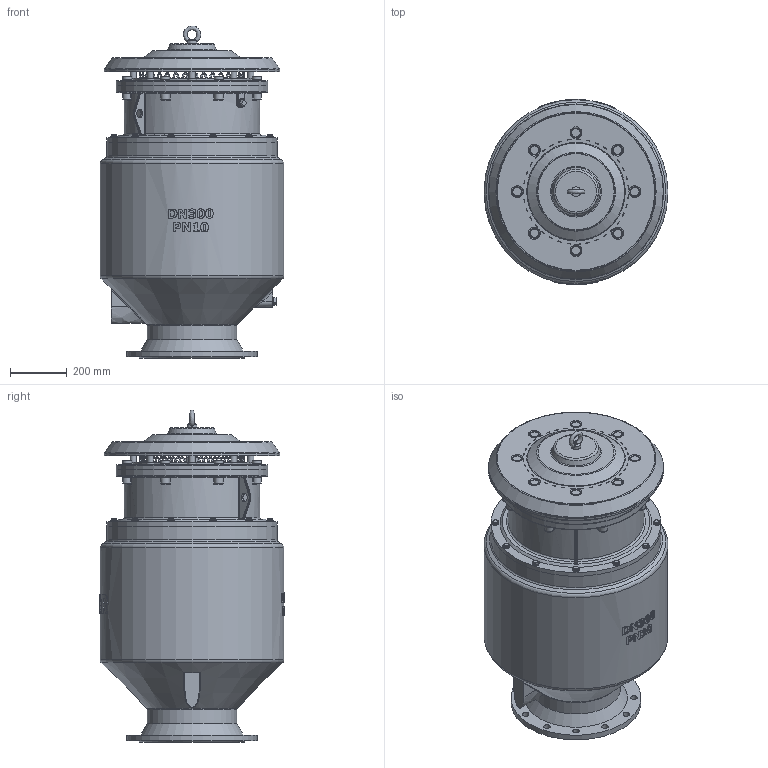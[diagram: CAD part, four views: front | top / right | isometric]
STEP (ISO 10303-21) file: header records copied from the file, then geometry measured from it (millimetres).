
FILE_DESCRIPTION(('STEP AP203'), '1');
FILE_NAME('Âîçäóøíûé êëàïàí FLOWJET SR', '', ('UNSPECIFIED'), ('UNSPECIFIED'), 'C3D Converter', 'C3D Toolkit', '');
FILE_SCHEMA(('CONFIG_CONTROL_DESIGN'));
Length unit declared in the file: millimetre
Assembly tree (78 placements, depth 2):
  (unnamed)
    (unnamed)
    (unnamed)
    (unnamed)
    (unnamed)
    (unnamed)
    (unnamed)
    (unnamed)
    (unnamed)
    (unnamed)
    (unnamed)
    (unnamed)
    (unnamed)  x8
    (unnamed)
    (unnamed)  x8
    (unnamed)  x12
    (unnamed)  x12
    (unnamed)  x8
    (unnamed)  x8
    (unnamed)  x8
    (unnamed)  x2
Bounding box: 650 x 654 x 1172.85 mm (x, y, z)
Volume: 35789448.1 mm3; surface area: 8862212.1 mm2
Topology: 79 solids, 80 shells, 2346 faces, 5826 edges, 3756 vertices
Faces by surface type: plane 803, bspline 553, cylinder 495, torus 202, extrusion 156, cone 128, sphere 9
Full cylindrical faces by diameter (mm): 9.026 x8, 10 x32, 10.5 x8, 11 x8, 11.026 x12, 12 x24, 13 x14, 16 x63, 18 x8, 20 x10, 21 x1, 21.3 x3, 22 x8, 23 x12, 24 x21, 25.6 x8, 30 x4, 32 x10, 48 x1, 82.234 x1, 292 x1, 300 x2, 316 x1, 370 x1, 372 x1, 384 x1, 410.667 x1, 416 x2, 432 x2, 436 x3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
Entity records: 151613 total; most frequent: CARTESIAN_POINT 109624, ORIENTED_EDGE 8378, DIRECTION 5886, EDGE_CURVE 4189, VERTEX_POINT 2859, AXIS2_PLACEMENT_3D 2384, EDGE_LOOP 2362, B_SPLINE_CURVE_WITH_KNOTS 2084
